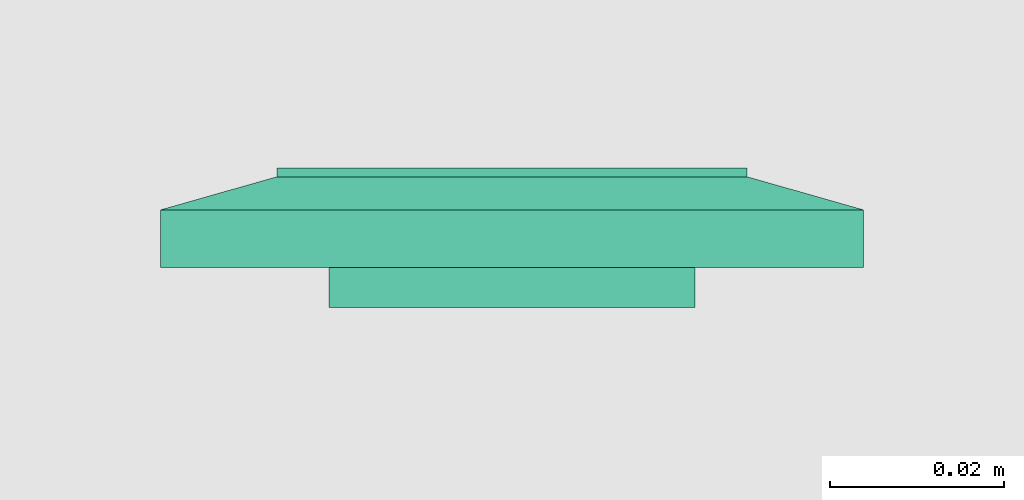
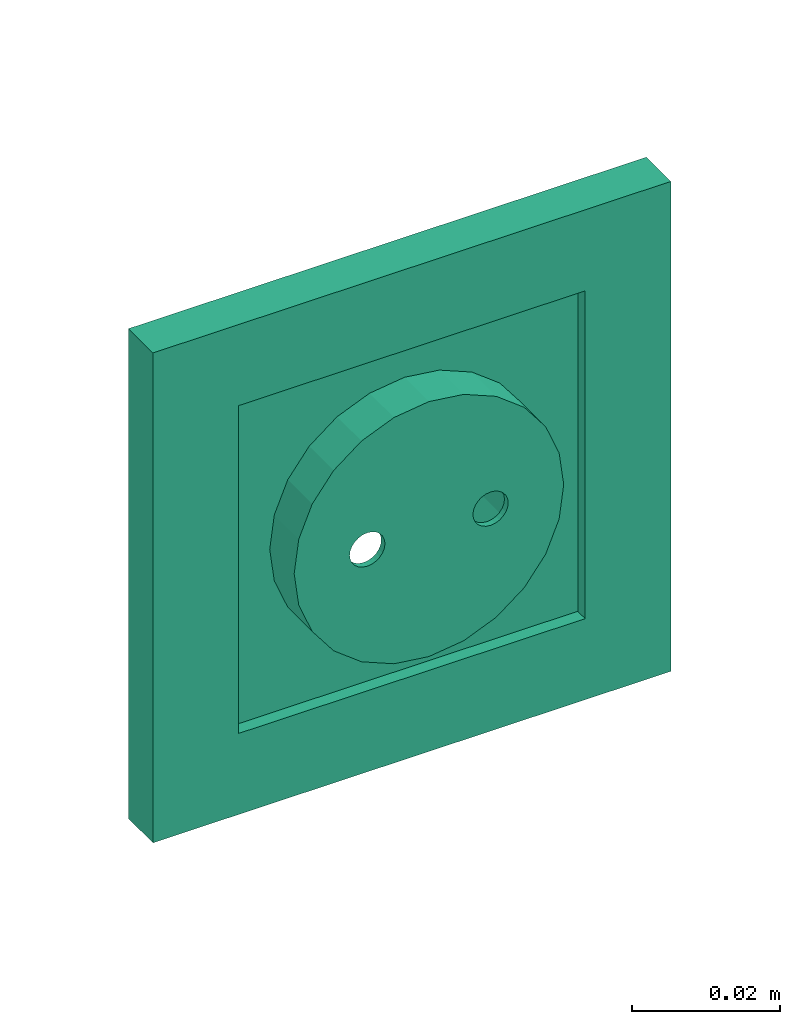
# One storey, part 37 of 153: 1 flow terminal.
"""IFC2X3 building model written with IfcOpenShell, lengths in metres."""

from ifc_helpers import new_model, entity, si_unit, converted_unit, derived_unit, direction, frame, origin, place, context, subcontext, project, spatial, face_set, surface_model, source, transform, mapped, type_object, type_shapes, element, save


model = new_model("IFC2X3")

# Units and contexts
model_context = context("Model", 3, precision=1e-05, world=origin(), true_north=direction((6.12303176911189e-17, 1.0)))
body_context = subcontext(model_context, "Body", "Model", "MODEL_VIEW")
ifc_project = project(units=[si_unit("LENGTHUNIT", "METRE"), si_unit("AREAUNIT", "SQUARE_METRE"), si_unit("VOLUMEUNIT", "CUBIC_METRE"), converted_unit("PLANEANGLEUNIT", "DEGREE", entity("IfcRatioMeasure", 0.0174532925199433), si_unit("PLANEANGLEUNIT", "RADIAN"), dimensions=[0, 0, 0, 0, 0, 0, 0]), si_unit("MASSUNIT", "GRAM", prefix="KILO"), derived_unit("MASSDENSITYUNIT", [(si_unit("MASSUNIT", "GRAM", prefix="KILO"), 1), (si_unit("LENGTHUNIT", "METRE"), -3)]), si_unit("TIMEUNIT", "SECOND"), si_unit("FREQUENCYUNIT", "HERTZ"), si_unit("THERMODYNAMICTEMPERATUREUNIT", "DEGREE_CELSIUS"), derived_unit("THERMALTRANSMITTANCEUNIT", [(si_unit("MASSUNIT", "GRAM", prefix="KILO"), 1), (si_unit("THERMODYNAMICTEMPERATUREUNIT", "KELVIN"), -1), (si_unit("TIMEUNIT", "SECOND"), -3)]), derived_unit("VOLUMETRICFLOWRATEUNIT", [(si_unit("LENGTHUNIT", "METRE"), 3), (si_unit("TIMEUNIT", "SECOND"), -1)]), si_unit("ELECTRICCURRENTUNIT", "AMPERE"), si_unit("ELECTRICVOLTAGEUNIT", "VOLT"), si_unit("POWERUNIT", "WATT"), si_unit("FORCEUNIT", "NEWTON"), si_unit("ILLUMINANCEUNIT", "LUX"), si_unit("LUMINOUSFLUXUNIT", "LUMEN"), si_unit("LUMINOUSINTENSITYUNIT", "CANDELA"), derived_unit("USERDEFINED", [(si_unit("MASSUNIT", "GRAM", prefix="KILO"), -1), (si_unit("LENGTHUNIT", "METRE"), -2), (si_unit("TIMEUNIT", "SECOND"), 3), (si_unit("LUMINOUSFLUXUNIT", "LUMEN"), 1)]), derived_unit("LINEARVELOCITYUNIT", [(si_unit("LENGTHUNIT", "METRE"), 1), (si_unit("TIMEUNIT", "SECOND"), -1)]), si_unit("PRESSUREUNIT", "PASCAL"), derived_unit("USERDEFINED", [(si_unit("LENGTHUNIT", "METRE"), -2), (si_unit("MASSUNIT", "GRAM", prefix="KILO"), 1), (si_unit("TIMEUNIT", "SECOND"), -2)])], contexts=[model_context])

# Site, building, storey
site_placement = place(None, origin())
site = spatial("IfcSite", under=ifc_project, at=site_placement, Name="Default", CompositionType="ELEMENT")
building_placement = place(site_placement, origin())
building = spatial("IfcBuilding", under=site, at=building_placement, CompositionType="ELEMENT")
storey_placement = place(building_placement, frame((0.0, 0.0, -4.62)))
storey = spatial("IfcBuildingStorey", under=building, at=storey_placement, Name="S02", CompositionType="ELEMENT", Elevation=-4.62)

# Flow terminal
light_fixture_type = type_object("IfcLightFixtureType", Name="Attente", PredefinedType="NOTDEFINED")
shared_shape = source(origin(), body_context, "Body", "SurfaceModel", [
    surface_model("IfcFaceBasedSurfaceModel", [(0.00225000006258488, 0.00949633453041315, 0.0127499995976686), (0.0, 0.00949633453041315, 0.0104999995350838), (0.0, 0.0101656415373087, 0.0115376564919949), (0.0, 0.0101656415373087, 0.0139623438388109), (0.0, 0.00984531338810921, 0.0144589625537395), (0.0, 0.0102778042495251, 0.0121178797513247), (0.0, 0.0102778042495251, 0.0133821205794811), (0.0, 0.010399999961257, 0.0127499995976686), (0.0, 0.00949633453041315, 0.0149999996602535), (-0.00225000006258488, 0.00949633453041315, 0.0127499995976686), (0.0, 0.00984531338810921, 0.0110410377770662), (0.0, 0.00949633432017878, 0.0127499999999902), (-0.0022499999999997, 0.0094963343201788, 0.0127499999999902), (-0.00217333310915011, 0.00949633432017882, 0.0121676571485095), (-0.0019485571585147, 0.00949633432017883, 0.0116249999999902), (-0.00159099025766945, 0.00949633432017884, 0.0111590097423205), (-0.00112499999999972, 0.00949633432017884, 0.0108014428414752), (-0.000582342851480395, 0.00949633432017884, 0.0105766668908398), (0.0, 0.00949633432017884, 0.0104999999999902), (0.000582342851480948, 0.00949633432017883, 0.0105766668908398), (0.00112500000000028, 0.00949633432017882, 0.0108014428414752), (0.00159099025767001, 0.00949633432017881, 0.0111590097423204), (0.00194855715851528, 0.00949633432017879, 0.0116249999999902), (0.0021733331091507, 0.00949633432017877, 0.0121676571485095), (0.0022500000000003, 0.00949633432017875, 0.0127499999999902), (0.00217333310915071, 0.00949633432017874, 0.0133323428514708), (0.0019485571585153, 0.00949633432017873, 0.0138749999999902), (0.00159099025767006, 0.00949633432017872, 0.0143409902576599), (0.00112500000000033, 0.00949633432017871, 0.0146985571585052), (0.000582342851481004, 0.00949633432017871, 0.0149233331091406), (0.0, 0.00949633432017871, 0.0149999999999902), (-0.000582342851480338, 0.00949633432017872, 0.0149233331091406), (-0.00112499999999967, 0.00949633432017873, 0.0146985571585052), (-0.00159099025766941, 0.00949633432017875, 0.0143409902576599), (-0.00194855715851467, 0.00949633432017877, 0.0138749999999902), (-0.00217333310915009, 0.00949633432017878, 0.0133323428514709), (-0.00224999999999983, -0.00360000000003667, 0.0127499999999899), (-0.00217333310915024, -0.00360000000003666, 0.0121676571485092), (-0.00194855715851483, -0.00360000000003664, 0.0116249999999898), (-0.00159099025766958, -0.00360000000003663, 0.0111590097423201), (-0.00112499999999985, -0.00360000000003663, 0.0108014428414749), (-0.000582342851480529, -0.00360000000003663, 0.0105766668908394), (0.0, -0.00360000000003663, 0.0104999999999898), (0.000582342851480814, -0.00360000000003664, 0.0105766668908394), (0.00112500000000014, -0.00360000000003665, 0.0108014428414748), (0.00159099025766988, -0.00360000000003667, 0.0111590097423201), (0.00194855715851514, -0.00360000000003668, 0.0116249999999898), (0.00217333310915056, -0.0036000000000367, 0.0121676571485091), (0.00225000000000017, -0.00360000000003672, 0.0127499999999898), (0.00217333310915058, -0.00360000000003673, 0.0133323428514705), (0.00194855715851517, -0.00360000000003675, 0.0138749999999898), (0.00159099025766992, -0.00360000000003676, 0.0143409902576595), (0.00112500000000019, -0.00360000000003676, 0.0146985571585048), (0.00058234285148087, -0.00360000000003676, 0.0149233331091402), (0.0, -0.00360000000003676, 0.0149999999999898), (-0.000582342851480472, -0.00360000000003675, 0.0149233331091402), (-0.0011249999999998, -0.00360000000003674, 0.0146985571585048), (-0.00159099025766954, -0.00360000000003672, 0.0143409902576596), (-0.0019485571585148, -0.00360000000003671, 0.0138749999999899), (-0.00217333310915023, -0.00360000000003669, 0.0133323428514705), (-0.0270000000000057, 0.0113999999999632, 0.0269999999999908), (0.0269999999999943, 0.0113999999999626, 0.0269999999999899), (0.0269999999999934, 0.0113999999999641, -0.0270000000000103), (-0.0270000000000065, 0.0113999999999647, -0.0270000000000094), (0.0199999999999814, 0.0113999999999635, 0.0), (0.0193185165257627, 0.0113999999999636, -0.00517638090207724), (0.0173205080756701, 0.0113999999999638, -0.0100000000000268), (0.0141421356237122, 0.0113999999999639, -0.0141421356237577), (0.00999999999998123, 0.011399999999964, -0.0173205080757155), (0.00517638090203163, 0.0113999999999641, -0.019318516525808), (0.0, 0.0113999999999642, -0.0200000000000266), (-0.00517638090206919, 0.0113999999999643, -0.0193185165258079), (-0.0100000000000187, 0.0113999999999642, -0.0173205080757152), (-0.0141421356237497, 0.0113999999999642, -0.0141421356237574), (-0.0173205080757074, 0.0113999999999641, -0.0100000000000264), (-0.0193185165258, 0.011399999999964, -0.0051763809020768), (-0.0200000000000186, 0.0113999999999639, 0.0), (-0.0193185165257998, 0.0113999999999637, 0.00517638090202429), (-0.0173205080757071, 0.0113999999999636, 0.00999999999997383), (-0.0141421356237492, 0.0113999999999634, 0.0141421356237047), (-0.0100000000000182, 0.0113999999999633, 0.0173205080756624), (-0.00517638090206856, 0.0113999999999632, 0.0193185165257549), (0.0, 0.0113999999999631, 0.0199999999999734), (0.00517638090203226, 0.0113999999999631, 0.0193185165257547), (0.0099999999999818, 0.0113999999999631, 0.017320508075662), (0.0141421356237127, 0.0113999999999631, 0.0141421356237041), (0.0173205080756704, 0.0113999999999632, 0.00999999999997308), (0.0193185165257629, 0.0113999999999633, 0.00517638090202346), (-0.0270000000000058, 0.00199999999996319, 0.0269999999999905), (-0.0270000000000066, 0.00199999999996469, -0.0270000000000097), (0.0269999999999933, 0.00199999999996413, -0.0270000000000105), (0.0269999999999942, 0.00199999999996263, 0.0269999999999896), (-0.0210000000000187, 0.00199999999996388, 0.0), (-0.0202844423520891, 0.00199999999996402, -0.00543519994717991), (-0.0181865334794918, 0.00199999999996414, -0.0105000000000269), (-0.0148492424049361, 0.00199999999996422, -0.0148492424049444), (-0.0105000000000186, 0.00199999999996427, -0.0181865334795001), (-0.00543519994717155, 0.00199999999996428, -0.0202844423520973), (0.0, 0.00199999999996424, -0.0210000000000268), (0.00543519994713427, 0.00199999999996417, -0.0202844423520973), (0.0104999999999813, 0.00199999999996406, -0.0181865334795), (0.0148492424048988, 0.00199999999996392, -0.0148492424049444), (0.0181865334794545, 0.00199999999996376, -0.0105000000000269), (0.0202844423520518, 0.0019999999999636, -0.00543519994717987), (0.0209999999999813, 0.00199999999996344, 0.0), (0.0202844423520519, 0.0019999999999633, 0.0054351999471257), (0.0181865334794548, 0.00199999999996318, 0.0104999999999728), (0.0148492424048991, 0.00199999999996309, 0.0148492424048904), (0.0104999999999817, 0.00199999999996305, 0.0181865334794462), (0.00543519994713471, 0.00199999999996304, 0.0202844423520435), (0.0, 0.00199999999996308, 0.0209999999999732), (-0.00543519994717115, 0.00199999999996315, 0.0202844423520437), (-0.0105000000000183, 0.00199999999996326, 0.0181865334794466), (-0.0148492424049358, 0.0019999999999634, 0.014849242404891), (-0.0181865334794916, 0.00199999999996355, 0.0104999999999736), (-0.020284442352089, 0.00199999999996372, 0.00543519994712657), (-0.0200000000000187, -0.00360000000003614, 0.0), (-0.0193185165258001, -0.003600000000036, -0.00517638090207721), (-0.0173205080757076, -0.00360000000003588, -0.0100000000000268), (-0.0141421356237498, -0.0036000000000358, -0.0141421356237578), (-0.0100000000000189, -0.00360000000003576, -0.0173205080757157), (-0.00517638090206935, -0.00360000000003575, -0.0193185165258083), (0.0, -0.00360000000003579, -0.020000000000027), (0.00517638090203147, -0.00360000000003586, -0.0193185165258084), (0.00999999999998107, -0.00360000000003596, -0.0173205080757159), (0.0141421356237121, -0.00360000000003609, -0.0141421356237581), (0.0173205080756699, -0.00360000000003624, -0.0100000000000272), (0.0193185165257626, -0.0036000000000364, -0.00517638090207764), (0.0199999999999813, -0.00360000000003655, 0.0), (0.0193185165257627, -0.00360000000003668, 0.00517638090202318), (0.0173205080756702, -0.0036000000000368, 0.00999999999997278), (0.0141421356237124, -0.00360000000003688, 0.0141421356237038), (0.00999999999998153, -0.00360000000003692, 0.0173205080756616), (0.00517638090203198, -0.00360000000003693, 0.0193185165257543), (0.0, -0.0036000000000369, 0.019999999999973), (-0.00517638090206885, -0.00360000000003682, 0.0193185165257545), (-0.0100000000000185, -0.00360000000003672, 0.0173205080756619), (-0.0141421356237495, -0.00360000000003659, 0.0141421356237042), (-0.0173205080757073, -0.00360000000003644, 0.00999999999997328), (-0.0193185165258, -0.00360000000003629, 0.00517638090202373), (0.0123499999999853, -0.00360000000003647, 0.0), (0.0122562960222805, -0.00360000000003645, -0.000711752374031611), (0.0119815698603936, -0.00360000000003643, -0.00137499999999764), (0.0115445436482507, -0.00360000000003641, -0.00194454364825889), (0.0109749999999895, -0.00360000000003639, -0.00238156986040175), (0.0103117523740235, -0.00360000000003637, -0.00265629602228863), (0.00959999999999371, -0.00360000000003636, -0.00274999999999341), (0.00888824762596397, -0.00360000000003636, -0.00265629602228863), (0.00822499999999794, -0.00360000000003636, -0.00238156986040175), (0.00765545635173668, -0.00360000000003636, -0.00194454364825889), (0.00721843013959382, -0.00360000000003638, -0.00137499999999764), (0.00694370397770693, -0.00360000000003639, -0.000711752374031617), (0.00685000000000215, -0.00360000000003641, 0.0), (0.00694370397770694, -0.00360000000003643, 0.000711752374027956), (0.00721843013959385, -0.00360000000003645, 0.00137499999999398), (0.00765545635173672, -0.00360000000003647, 0.00194454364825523), (0.00822499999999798, -0.00360000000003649, 0.00238156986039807), (0.00888824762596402, -0.00360000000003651, 0.00265629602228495), (0.00959999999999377, -0.00360000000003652, 0.0027499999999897), (0.0103117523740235, -0.00360000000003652, 0.00265629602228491), (0.0109749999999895, -0.00360000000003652, 0.00238156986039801), (0.0115445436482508, -0.00360000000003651, 0.00194454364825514), (0.0119815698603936, -0.0036000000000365, 0.00137499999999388), (0.0122562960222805, -0.00360000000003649, 0.000711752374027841), (-0.00685000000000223, -0.00360000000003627, 0.0), (-0.00694370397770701, -0.00360000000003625, -0.000711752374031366), (-0.0072184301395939, -0.00360000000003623, -0.00137499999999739), (-0.00765545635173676, -0.00360000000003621, -0.00194454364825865), (-0.00822499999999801, -0.00360000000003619, -0.0023815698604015), (-0.00888824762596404, -0.00360000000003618, -0.00265629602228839), (-0.00959999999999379, -0.00360000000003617, -0.00274999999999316), (-0.0103117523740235, -0.00360000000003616, -0.00265629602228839), (-0.0109749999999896, -0.00360000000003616, -0.00238156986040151), (-0.0115445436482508, -0.00360000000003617, -0.00194454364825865), (-0.0119815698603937, -0.00360000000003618, -0.0013749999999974), (-0.0122562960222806, -0.0036000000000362, -0.000711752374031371), (-0.0123499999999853, -0.00360000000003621, 0.0), (-0.0122562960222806, -0.00360000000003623, 0.000711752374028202), (-0.0119815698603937, -0.00360000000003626, 0.00137499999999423), (-0.0115445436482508, -0.00360000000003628, 0.00194454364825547), (-0.0109749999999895, -0.00360000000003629, 0.00238156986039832), (-0.0103117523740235, -0.00360000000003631, 0.00265629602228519), (-0.00959999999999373, -0.00360000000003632, 0.00274999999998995), (-0.00888824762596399, -0.00360000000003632, 0.00265629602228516), (-0.00822499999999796, -0.00360000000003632, 0.00238156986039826), (-0.00765545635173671, -0.00360000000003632, 0.00194454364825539), (-0.00721843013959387, -0.0036000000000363, 0.00137499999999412), (-0.00694370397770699, -0.00360000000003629, 0.000711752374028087), (-0.0210000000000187, -0.00460000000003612, 0.0), (-0.0202844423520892, -0.00460000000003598, -0.00543519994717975), (-0.018186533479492, -0.00460000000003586, -0.0105000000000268), (-0.0148492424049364, -0.00460000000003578, -0.0148492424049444), (-0.0105000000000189, -0.00460000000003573, -0.0181865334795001), (-0.00543519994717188, -0.00460000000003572, -0.0202844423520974), (0.0, -0.00460000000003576, -0.021000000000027), (0.00543519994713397, -0.00460000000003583, -0.0202844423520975), (0.0104999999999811, -0.00460000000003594, -0.0181865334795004), (0.0148492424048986, -0.00460000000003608, -0.0148492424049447), (0.0181865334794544, -0.00460000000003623, -0.0105000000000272), (0.0202844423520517, -0.0046000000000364, -0.0054351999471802), (0.0209999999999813, -0.00460000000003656, 0.0), (0.0202844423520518, -0.0046000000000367, 0.00543519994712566), (0.0181865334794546, -0.00460000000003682, 0.0104999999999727), (0.014849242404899, -0.00460000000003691, 0.0148492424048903), (0.0104999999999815, -0.00460000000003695, 0.0181865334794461), (0.0054351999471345, -0.00460000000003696, 0.0202844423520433), (0.0, -0.00460000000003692, 0.020999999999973), (-0.00543519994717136, -0.00460000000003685, 0.0202844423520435), (-0.0105000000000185, -0.00460000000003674, 0.0181865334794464), (-0.014849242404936, -0.0046000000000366, 0.0148492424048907), (-0.0181865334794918, -0.00460000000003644, 0.0104999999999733), (-0.0202844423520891, -0.00460000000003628, 0.00543519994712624), (0.00685000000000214, -0.00460000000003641, 0.0), (0.00694370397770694, -0.00460000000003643, 0.000711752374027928), (0.00721843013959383, -0.00460000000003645, 0.00137499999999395), (0.0076554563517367, -0.00460000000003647, 0.0019445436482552), (0.00822499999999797, -0.00460000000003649, 0.00238156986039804), (0.00888824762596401, -0.0046000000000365, 0.00265629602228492), (0.00959999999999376, -0.00460000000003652, 0.00274999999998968), (0.0103117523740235, -0.00460000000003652, 0.00265629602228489), (0.0109749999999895, -0.00460000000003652, 0.00238156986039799), (0.0115445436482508, -0.00460000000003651, 0.00194454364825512), (0.0119815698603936, -0.0046000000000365, 0.00137499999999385), (0.0122562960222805, -0.00460000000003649, 0.000711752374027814), (0.0123499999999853, -0.00460000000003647, 0.0), (0.0122562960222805, -0.00460000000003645, -0.00071175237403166), (0.0119815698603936, -0.00460000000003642, -0.00137499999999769), (0.0115445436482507, -0.0046000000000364, -0.00194454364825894), (0.0109749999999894, -0.00460000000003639, -0.00238156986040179), (0.0103117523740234, -0.00460000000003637, -0.00265629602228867), (0.00959999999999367, -0.00460000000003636, -0.00274999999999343), (0.00888824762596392, -0.00460000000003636, -0.00265629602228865), (0.00822499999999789, -0.00460000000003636, -0.00238156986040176), (0.00765545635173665, -0.00460000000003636, -0.00194454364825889), (0.00721843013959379, -0.00460000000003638, -0.00137499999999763), (0.00694370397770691, -0.00460000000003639, -0.0007117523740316), (-0.0123499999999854, -0.00460000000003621, 0.0), (-0.0122562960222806, -0.00460000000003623, 0.000711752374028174), (-0.0119815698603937, -0.00460000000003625, 0.0013749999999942), (-0.0115445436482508, -0.00460000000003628, 0.00194454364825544), (-0.0109749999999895, -0.00460000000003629, 0.00238156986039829), (-0.0103117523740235, -0.00460000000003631, 0.00265629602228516), (-0.00959999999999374, -0.00460000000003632, 0.00274999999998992), (-0.008888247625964, -0.00460000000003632, 0.00265629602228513), (-0.00822499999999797, -0.00460000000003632, 0.00238156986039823), (-0.00765545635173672, -0.00460000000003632, 0.00194454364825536), (-0.00721843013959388, -0.0046000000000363, 0.0013749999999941), (-0.006943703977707, -0.00460000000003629, 0.000711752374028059), (-0.00685000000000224, -0.00460000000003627, 0.0), (-0.00694370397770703, -0.00460000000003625, -0.000711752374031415), (-0.00721843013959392, -0.00460000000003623, -0.00137499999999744), (-0.00765545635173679, -0.00460000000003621, -0.00194454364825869), (-0.00822499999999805, -0.00460000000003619, -0.00238156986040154), (-0.00888824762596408, -0.00460000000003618, -0.00265629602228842), (-0.00959999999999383, -0.00460000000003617, -0.00274999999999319), (-0.0103117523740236, -0.00460000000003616, -0.00265629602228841), (-0.0109749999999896, -0.00460000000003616, -0.00238156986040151), (-0.0115445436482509, -0.00460000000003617, -0.00194454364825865), (-0.0119815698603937, -0.00460000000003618, -0.00137499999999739), (-0.0122562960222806, -0.00460000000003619, -0.000711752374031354), (-0.0403499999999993, 0.00659999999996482, 0.0403499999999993), (-0.0403500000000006, 0.00659999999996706, -0.0403500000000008), (0.0403499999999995, 0.00659999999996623, -0.0403500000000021), (0.0403500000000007, 0.00659999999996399, 0.040349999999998), (-0.0269999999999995, 0.00659999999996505, 0.026999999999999), (0.0270000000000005, 0.0065999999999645, 0.0269999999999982), (0.0269999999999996, 0.006599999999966, -0.0270000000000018), (-0.0270000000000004, 0.00659999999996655, -0.027000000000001), (-0.0269999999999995, 0.0103999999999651, 0.0269999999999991), (0.0270000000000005, 0.0103999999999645, 0.0269999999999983), (0.0269999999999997, 0.010399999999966, -0.0270000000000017), (-0.0270000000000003, 0.0103999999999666, -0.0270000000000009), (-0.0403499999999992, 0.00659999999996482, 0.0403499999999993), (-0.0403500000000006, 0.00659999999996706, -0.0403500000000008), (0.0403499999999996, 0.00659999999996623, -0.0403500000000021), (0.0403500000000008, 0.00659999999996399, 0.040349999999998), (0.0270000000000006, 0.0065999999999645, 0.0269999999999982), (0.0269999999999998, 0.006599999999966, -0.0270000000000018), (-0.0270000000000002, 0.00659999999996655, -0.027000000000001), (-0.0269999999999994, 0.00659999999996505, 0.026999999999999), (-0.0403499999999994, 0.0, 0.0403499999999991), (-0.0403500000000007, 0.0, -0.040350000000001), (0.0403499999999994, 0.0, -0.0403500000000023), (0.0403500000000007, 0.0, 0.0403499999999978), (-0.0269999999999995, 0.0, 0.0269999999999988), (0.0270000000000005, 0.0, 0.026999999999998), (0.0269999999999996, 0.0, -0.027000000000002), (-0.0270000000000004, 0.0, -0.0270000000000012)], [face_set([[[0, 1, 2]], [[3, 4, 2, 5]], [[6, 3, 5, 7]], [[2, 4, 0]], [[4, 8, 0]], [[3, 9, 8]], [[1, 9, 10]], [[2, 3, 6, 7]], [[3, 10, 9]], [[2, 10, 3]], [[11, 1, 0, 8]], [[11, 8, 9, 1]]]), face_set([[[12, 13, 14, 15, 16, 17, 18, 19, 20, 21, 22, 23, 24, 25, 26, 27, 28, 29, 30, 31, 32, 33, 34, 35]], [[36, 37, 38, 39, 40, 41, 42, 43, 44, 45, 46, 47, 48, 49, 50, 51, 52, 53, 54, 55, 56, 57, 58, 59]], [[48, 47, 23, 24]], [[47, 46, 22, 23]], [[45, 44, 20, 21]], [[46, 45, 21, 22]], [[44, 43, 19, 20]], [[18, 19, 43, 42]], [[42, 41, 17, 18]], [[41, 40, 16, 17]], [[39, 38, 14, 15]], [[40, 39, 15, 16]], [[38, 37, 13, 14]], [[12, 13, 37, 36]], [[36, 59, 35, 12]], [[59, 58, 34, 35]], [[57, 56, 32, 33]], [[58, 57, 33, 34]], [[56, 55, 31, 32]], [[30, 31, 55, 54]], [[54, 53, 29, 30]], [[53, 52, 28, 29]], [[51, 50, 26, 27]], [[52, 51, 27, 28]], [[50, 49, 25, 26]], [[24, 25, 49, 48]]]), face_set([[[60, 61, 62, 63], [64, 65, 66, 67, 68, 69, 70, 71, 72, 73, 74, 75, 76, 77, 78, 79, 80, 81, 82, 83, 84, 85, 86, 87]], [[88, 89, 90, 91], [92, 93, 94, 95, 96, 97, 98, 99, 100, 101, 102, 103, 104, 105, 106, 107, 108, 109, 110, 111, 112, 113, 114, 115]], [[61, 60, 88, 91]], [[62, 61, 91, 90]], [[63, 62, 90, 89]], [[60, 63, 89, 88]], [[116, 117, 118, 119, 120, 121, 122, 123, 124, 125, 126, 127, 128, 129, 130, 131, 132, 133, 134, 135, 136, 137, 138, 139], [140, 141, 142, 143, 144, 145, 146, 147, 148, 149, 150, 151, 152, 153, 154, 155, 156, 157, 158, 159, 160, 161, 162, 163], [164, 165, 166, 167, 168, 169, 170, 171, 172, 173, 174, 175, 176, 177, 178, 179, 180, 181, 182, 183, 184, 185, 186, 187]], [[64, 128, 127, 65]], [[65, 127, 126, 66]], [[67, 125, 124, 68]], [[66, 126, 125, 67]], [[68, 124, 123, 69]], [[122, 70, 69, 123]], [[70, 122, 121, 71]], [[71, 121, 120, 72]], [[73, 119, 118, 74]], [[72, 120, 119, 73]], [[74, 118, 117, 75]], [[116, 76, 75, 117]], [[76, 116, 139, 77]], [[77, 139, 138, 78]], [[79, 137, 136, 80]], [[78, 138, 137, 79]], [[80, 136, 135, 81]], [[134, 82, 81, 135]], [[82, 134, 133, 83]], [[83, 133, 132, 84]], [[84, 132, 131, 85]], [[85, 131, 130, 86]], [[130, 129, 87, 86]], [[64, 87, 129, 128]], [[188, 189, 190, 191, 192, 193, 194, 195, 196, 197, 198, 199, 200, 201, 202, 203, 204, 205, 206, 207, 208, 209, 210, 211], [212, 213, 214, 215, 216, 217, 218, 219, 220, 221, 222, 223, 224, 225, 226, 227, 228, 229, 230, 231, 232, 233, 234, 235], [236, 237, 238, 239, 240, 241, 242, 243, 244, 245, 246, 247, 248, 249, 250, 251, 252, 253, 254, 255, 256, 257, 258, 259]], [[200, 199, 103, 104]], [[199, 198, 102, 103]], [[197, 196, 100, 101]], [[198, 197, 101, 102]], [[196, 195, 99, 100]], [[98, 99, 195, 194]], [[194, 193, 97, 98]], [[193, 192, 96, 97]], [[191, 190, 94, 95]], [[192, 191, 95, 96]], [[190, 189, 93, 94]], [[92, 93, 189, 188]], [[188, 211, 115, 92]], [[211, 210, 114, 115]], [[209, 208, 112, 113]], [[210, 209, 113, 114]], [[208, 207, 111, 112]], [[110, 111, 207, 206]], [[206, 205, 109, 110]], [[205, 204, 108, 109]], [[203, 202, 106, 107]], [[204, 203, 107, 108]], [[202, 201, 105, 106]], [[104, 105, 201, 200]], [[141, 225, 226, 142]], [[140, 224, 225, 141]], [[144, 228, 229, 145]], [[143, 227, 228, 144]], [[142, 226, 227, 143]], [[230, 146, 145, 229]], [[149, 233, 232, 148]], [[148, 232, 231, 147]], [[152, 212, 235, 151]], [[151, 235, 234, 150]], [[150, 234, 233, 149]], [[146, 230, 231, 147]], [[154, 214, 213, 153]], [[153, 213, 212, 152]], [[157, 217, 216, 156]], [[156, 216, 215, 155]], [[155, 215, 214, 154]], [[218, 158, 157, 217]], [[160, 220, 221, 161]], [[159, 219, 220, 160]], [[163, 223, 224, 140]], [[162, 222, 223, 163]], [[161, 221, 222, 162]], [[158, 218, 219, 159]], [[166, 250, 249, 165]], [[165, 249, 248, 164]], [[169, 253, 252, 168]], [[168, 252, 251, 167]], [[167, 251, 250, 166]], [[254, 170, 169, 253]], [[172, 256, 257, 173]], [[171, 255, 256, 172]], [[175, 259, 236, 176]], [[174, 258, 259, 175]], [[173, 257, 258, 174]], [[170, 254, 255, 171]], [[177, 237, 238, 178]], [[176, 236, 237, 177]], [[180, 240, 241, 181]], [[179, 239, 240, 180]], [[178, 238, 239, 179]], [[242, 182, 181, 241]], [[185, 245, 244, 184]], [[184, 244, 243, 183]], [[164, 248, 247, 187]], [[187, 247, 246, 186]], [[186, 246, 245, 185]], [[182, 242, 243, 183]]]), face_set([[[260, 261, 262, 263], [264, 265, 266, 267]], [[260, 268, 269, 263]], [[263, 269, 270, 262]], [[262, 270, 271, 261]], [[261, 271, 268, 260]], [[264, 265, 269, 268]], [[265, 266, 270, 269]], [[266, 267, 271, 270]], [[268, 271, 267, 264]]]), face_set([[[272, 273, 274, 275], [276, 277, 278, 279]], [[280, 281, 282, 283], [284, 285, 286, 287]], [[275, 272, 280, 283]], [[274, 275, 283, 282]], [[273, 274, 282, 281]], [[272, 273, 281, 280]], [[284, 285, 276, 279]], [[285, 286, 277, 276]], [[286, 287, 278, 277]], [[279, 278, 287, 284]]])]),
])
type_shapes(light_fixture_type, [shared_shape])
flow_terminal_placement = place(storey_placement, frame((37.1294107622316, -193.186122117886, 0.0)))
element("IfcFlowTerminal", 1, at=flow_terminal_placement, inside=storey, type_object=light_fixture_type, Name="INT_Attente électrique:Attente", ObjectType="INT_Attente électrique:Attente", context=body_context, shape_type="MappedRepresentation", body=[
    mapped(shared_shape, transform((0.0, 0.0, 0.0), scale=1.0)),
])

save(model, "model.ifc")
